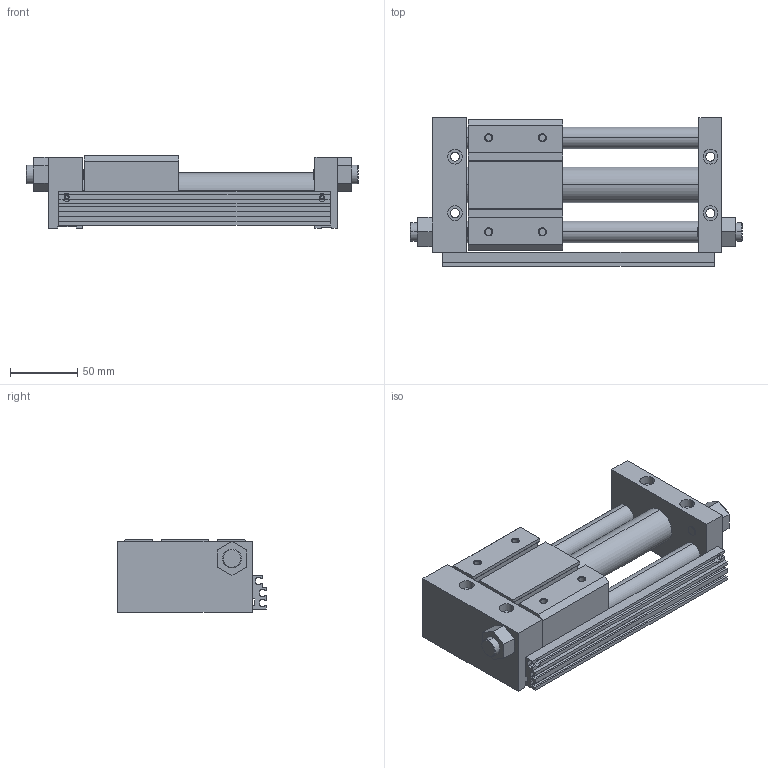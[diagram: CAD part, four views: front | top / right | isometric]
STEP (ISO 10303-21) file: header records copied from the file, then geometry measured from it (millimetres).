
FILE_DESCRIPTION((''),'2;1');
FILE_NAME('C:\Documents and Settings\Administrator\桌面\GYS\GYS25\GYSR25X100.stp','2012-03-06T11:01:16',('Administrator'),(''),'Autodesk Inventor 8','Autodesk Inventor 8','');
FILE_SCHEMA(('AUTOMOTIVE_DESIGN { 1 0 10303 214 1 1 1 1 }'));
Length unit declared in the file: millimetre
Products named in the file (3): GYSR25X100; GYS25X100; GYS25160X100
Assembly tree (2 placements, depth 2):
  GYSR25X100
    GYS25X100
    GYS25160X100
Bounding box: 247 x 110.5 x 54 mm (x, y, z)
Volume: 669616.4 mm3; surface area: 116220 mm2
Topology: 2 solids, 2 shells, 276 faces, 718 edges, 468 vertices
Faces by surface type: plane 154, cylinder 80, cone 32, bspline 10
Entity records: 8662 total; most frequent: CARTESIAN_POINT 1609, DIRECTION 1476, ORIENTED_EDGE 1436, EDGE_CURVE 718, VECTOR 502, LINE 502, AXIS2_PLACEMENT_3D 487, VERTEX_POINT 468
